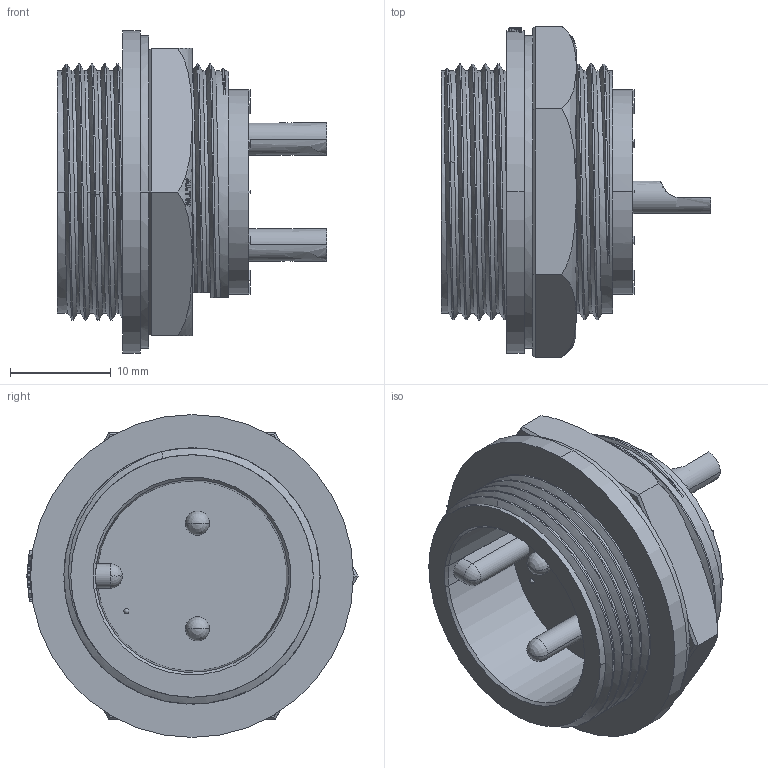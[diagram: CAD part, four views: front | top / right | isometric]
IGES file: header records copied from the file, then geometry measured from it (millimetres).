
Start section:  PTC IGES file: 1dc-02rmms-sc7001.igs
Global section: file name: 1dc-02rmms-sc7001.igs; native system: Creo Parametric by Parametric Technology Corporation; preprocessor: 2017170; author: L210039; organization: Unknown; date: 20211004.131842; units: millimetre
Bounding box: 26.7 x 32.91 x 32 mm (x, y, z)
Volume: 7041.6 mm3; surface area: 5900.8 mm2
Topology: 1 solids, 1 shells, 553 faces, 1560 edges, 1021 vertices
Faces by surface type: bspline 291, revolution 138, extrusion 124
